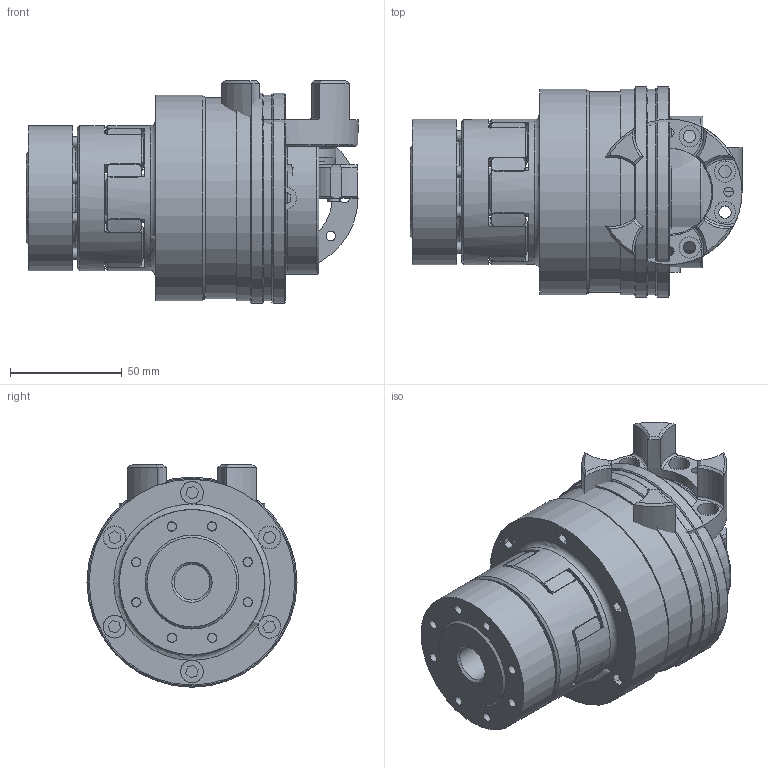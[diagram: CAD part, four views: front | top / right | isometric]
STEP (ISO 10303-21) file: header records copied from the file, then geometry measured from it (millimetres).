
FILE_DESCRIPTION( ( 'Unknown' ), '1' );
FILE_NAME( 'C:/Dokumente und Einstellungen/Sven/Desktop/hp kbk/E-AI/KBK EAI-28-131.stp', 'Unknown', ( 'Unknown' ), ( 'Unknown' ), 'XStep 1.0', 'Unknown', ' ' );
FILE_SCHEMA( ( 'automotive_design' ) );
Length unit declared in the file: millimetre
Products named in the file (19): Assem1; Assem2; Assem3; Zylinderschraube DIN 912_5; ball_bearing_-_6008_0_01_0; ball_bearing_-_6008_0_02_0; ball_bearing_-_6008_0_03_0; KBK L-I-80 Grundkörper_0; Konusbuchse 80_0; Stellring 80_0; Druckring 80_0; Flansch 80_0; a_40_0; din_en_24017_m6x25_0; Elastomerflansch 28_0; Zahnkranz EK28_Standard_0; KBE 3 - 28_Nabe; KBE3-28_Druckring_0; ISO EN DIN 4762 M5x25
Bounding box: 148.55 x 94 x 99.5 mm (x, y, z)
Volume: 930520.6 mm3; surface area: 359746.7 mm2
Topology: 53 solids, 53 shells, 1298 faces, 2910 edges, 1855 vertices
Faces by surface type: plane 479, cylinder 404, cone 341, torus 74
Full cylindrical faces by diameter (mm): 2.5 x4, 3.242 x6, 4.2 x24, 4.917 x30, 5 x33, 5.2 x6, 5.5 x16, 6 x15, 6.2 x12, 6.6 x12, 8.5 x9, 8.8 x7, 9.5 x16, 10 x8, 10.2 x12, 16 x2, 30 x10, 37.5 x2, 39 x2, 40 x7, 41 x2, 45 x2, 49.2 x6, 59.1 x6, 59.5 x2, 61 x2, 62 x4, 65 x6, 68 x7, 70 x2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
Entity records: 14122 total; most frequent: CARTESIAN_POINT 2955, DIRECTION 2284, ORIENTED_EDGE 1712, AXIS2_PLACEMENT_3D 1063, EDGE_CURVE 856, EDGE_LOOP 800, VERTEX_POINT 642, FACE_OUTER_BOUND 608
